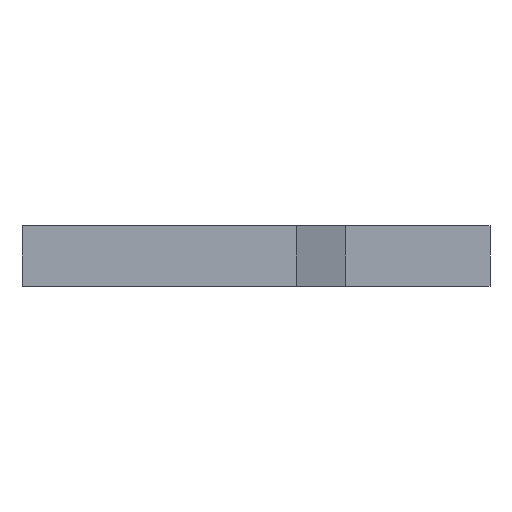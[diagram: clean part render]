
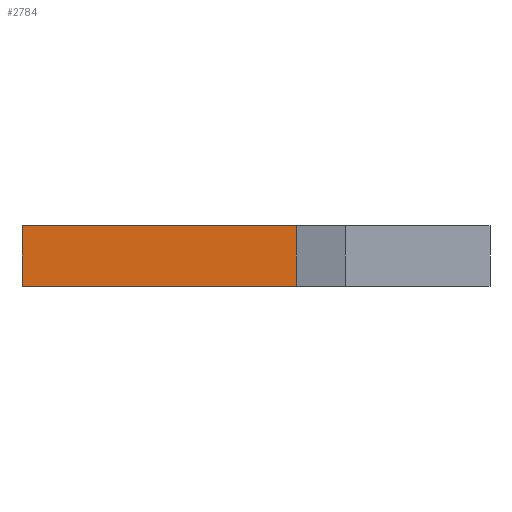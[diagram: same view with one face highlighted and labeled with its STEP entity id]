
A CAD part, left-side view. The second image highlights one B-rep face of the part: STEP entity #2784.
In plain terms, the highlighted planar face has unit normal (-1, 0, 0).
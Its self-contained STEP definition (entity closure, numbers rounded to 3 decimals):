
#1990 = PLANE('',#1991);
#1991 = AXIS2_PLACEMENT_3D('',#1992,#1993,#1994);
#1992 = CARTESIAN_POINT('',(-479.,-134.913,52.));
#1993 = DIRECTION('',(0.,0.,1.));
#1994 = DIRECTION('',(1.,0.,-0.));
#2018 = PLANE('',#2019);
#2019 = AXIS2_PLACEMENT_3D('',#2020,#2021,#2022);
#2020 = CARTESIAN_POINT('',(-479.,-134.913,44.));
#2021 = DIRECTION('',(-0.,1.,0.));
#2022 = DIRECTION('',(0.,0.,1.));
#2044 = PLANE('',#2045);
#2045 = AXIS2_PLACEMENT_3D('',#2046,#2047,#2048);
#2046 = CARTESIAN_POINT('',(-479.,-134.913,44.));
#2047 = DIRECTION('',(0.,0.,1.));
#2048 = DIRECTION('',(1.,0.,-0.));
#2337 = PLANE('',#2338);
#2338 = AXIS2_PLACEMENT_3D('',#2339,#2340,#2341);
#2339 = CARTESIAN_POINT('',(-479.,-98.913,44.));
#2340 = DIRECTION('',(-0.,1.,0.));
#2341 = DIRECTION('',(0.,0.,1.));
#2504 = VERTEX_POINT('',#2505);
#2505 = CARTESIAN_POINT('',(-479.,-98.913,52.));
#2526 = EDGE_CURVE('',#2527,#2504,#2529,.T.);
#2527 = VERTEX_POINT('',#2528);
#2528 = CARTESIAN_POINT('',(-479.,-134.913,52.));
#2529 = SURFACE_CURVE('',#2530,(#2534,#2541),.PCURVE_S1.);
#2530 = LINE('',#2531,#2532);
#2531 = CARTESIAN_POINT('',(-479.,-134.913,52.));
#2532 = VECTOR('',#2533,1.);
#2533 = DIRECTION('',(-0.,1.,0.));
#2534 = PCURVE('',#1990,#2535);
#2535 = DEFINITIONAL_REPRESENTATION('',(#2536),#2540);
#2536 = LINE('',#2537,#2538);
#2537 = CARTESIAN_POINT('',(0.,0.));
#2538 = VECTOR('',#2539,1.);
#2539 = DIRECTION('',(0.,1.));
#2540 = ( GEOMETRIC_REPRESENTATION_CONTEXT(2) 
PARAMETRIC_REPRESENTATION_CONTEXT() REPRESENTATION_CONTEXT('2D SPACE',''
  ) );
#2541 = PCURVE('',#2542,#2547);
#2542 = PLANE('',#2543);
#2543 = AXIS2_PLACEMENT_3D('',#2544,#2545,#2546);
#2544 = CARTESIAN_POINT('',(-479.,-134.913,44.));
#2545 = DIRECTION('',(1.,0.,-0.));
#2546 = DIRECTION('',(0.,0.,1.));
#2547 = DEFINITIONAL_REPRESENTATION('',(#2548),#2552);
#2548 = LINE('',#2549,#2550);
#2549 = CARTESIAN_POINT('',(8.,0.));
#2550 = VECTOR('',#2551,1.);
#2551 = DIRECTION('',(0.,-1.));
#2552 = ( GEOMETRIC_REPRESENTATION_CONTEXT(2) 
PARAMETRIC_REPRESENTATION_CONTEXT() REPRESENTATION_CONTEXT('2D SPACE',''
  ) );
#2607 = VERTEX_POINT('',#2608);
#2608 = CARTESIAN_POINT('',(-479.,-98.913,44.));
#2629 = EDGE_CURVE('',#2630,#2607,#2632,.T.);
#2630 = VERTEX_POINT('',#2631);
#2631 = CARTESIAN_POINT('',(-479.,-134.913,44.));
#2632 = SURFACE_CURVE('',#2633,(#2637,#2644),.PCURVE_S1.);
#2633 = LINE('',#2634,#2635);
#2634 = CARTESIAN_POINT('',(-479.,-134.913,44.));
#2635 = VECTOR('',#2636,1.);
#2636 = DIRECTION('',(-0.,1.,0.));
#2637 = PCURVE('',#2044,#2638);
#2638 = DEFINITIONAL_REPRESENTATION('',(#2639),#2643);
#2639 = LINE('',#2640,#2641);
#2640 = CARTESIAN_POINT('',(0.,0.));
#2641 = VECTOR('',#2642,1.);
#2642 = DIRECTION('',(0.,1.));
#2643 = ( GEOMETRIC_REPRESENTATION_CONTEXT(2) 
PARAMETRIC_REPRESENTATION_CONTEXT() REPRESENTATION_CONTEXT('2D SPACE',''
  ) );
#2644 = PCURVE('',#2542,#2645);
#2645 = DEFINITIONAL_REPRESENTATION('',(#2646),#2650);
#2646 = LINE('',#2647,#2648);
#2647 = CARTESIAN_POINT('',(0.,0.));
#2648 = VECTOR('',#2649,1.);
#2649 = DIRECTION('',(0.,-1.));
#2650 = ( GEOMETRIC_REPRESENTATION_CONTEXT(2) 
PARAMETRIC_REPRESENTATION_CONTEXT() REPRESENTATION_CONTEXT('2D SPACE',''
  ) );
#2704 = EDGE_CURVE('',#2630,#2527,#2705,.T.);
#2705 = SURFACE_CURVE('',#2706,(#2710,#2717),.PCURVE_S1.);
#2706 = LINE('',#2707,#2708);
#2707 = CARTESIAN_POINT('',(-479.,-134.913,44.));
#2708 = VECTOR('',#2709,1.);
#2709 = DIRECTION('',(0.,0.,1.));
#2710 = PCURVE('',#2018,#2711);
#2711 = DEFINITIONAL_REPRESENTATION('',(#2712),#2716);
#2712 = LINE('',#2713,#2714);
#2713 = CARTESIAN_POINT('',(0.,0.));
#2714 = VECTOR('',#2715,1.);
#2715 = DIRECTION('',(1.,0.));
#2716 = ( GEOMETRIC_REPRESENTATION_CONTEXT(2) 
PARAMETRIC_REPRESENTATION_CONTEXT() REPRESENTATION_CONTEXT('2D SPACE',''
  ) );
#2717 = PCURVE('',#2542,#2718);
#2718 = DEFINITIONAL_REPRESENTATION('',(#2719),#2723);
#2719 = LINE('',#2720,#2721);
#2720 = CARTESIAN_POINT('',(0.,0.));
#2721 = VECTOR('',#2722,1.);
#2722 = DIRECTION('',(1.,0.));
#2723 = ( GEOMETRIC_REPRESENTATION_CONTEXT(2) 
PARAMETRIC_REPRESENTATION_CONTEXT() REPRESENTATION_CONTEXT('2D SPACE',''
  ) );
#2762 = EDGE_CURVE('',#2607,#2504,#2763,.T.);
#2763 = SURFACE_CURVE('',#2764,(#2768,#2775),.PCURVE_S1.);
#2764 = LINE('',#2765,#2766);
#2765 = CARTESIAN_POINT('',(-479.,-98.913,44.));
#2766 = VECTOR('',#2767,1.);
#2767 = DIRECTION('',(0.,0.,1.));
#2768 = PCURVE('',#2337,#2769);
#2769 = DEFINITIONAL_REPRESENTATION('',(#2770),#2774);
#2770 = LINE('',#2771,#2772);
#2771 = CARTESIAN_POINT('',(0.,0.));
#2772 = VECTOR('',#2773,1.);
#2773 = DIRECTION('',(1.,0.));
#2774 = ( GEOMETRIC_REPRESENTATION_CONTEXT(2) 
PARAMETRIC_REPRESENTATION_CONTEXT() REPRESENTATION_CONTEXT('2D SPACE',''
  ) );
#2775 = PCURVE('',#2542,#2776);
#2776 = DEFINITIONAL_REPRESENTATION('',(#2777),#2781);
#2777 = LINE('',#2778,#2779);
#2778 = CARTESIAN_POINT('',(0.,-36.));
#2779 = VECTOR('',#2780,1.);
#2780 = DIRECTION('',(1.,0.));
#2781 = ( GEOMETRIC_REPRESENTATION_CONTEXT(2) 
PARAMETRIC_REPRESENTATION_CONTEXT() REPRESENTATION_CONTEXT('2D SPACE',''
  ) );
#2784 = ADVANCED_FACE('',(#2785),#2542,.F.);
#2785 = FACE_BOUND('',#2786,.F.);
#2786 = EDGE_LOOP('',(#2787,#2788,#2789,#2790));
#2787 = ORIENTED_EDGE('',*,*,#2704,.F.);
#2788 = ORIENTED_EDGE('',*,*,#2629,.T.);
#2789 = ORIENTED_EDGE('',*,*,#2762,.T.);
#2790 = ORIENTED_EDGE('',*,*,#2526,.F.);
